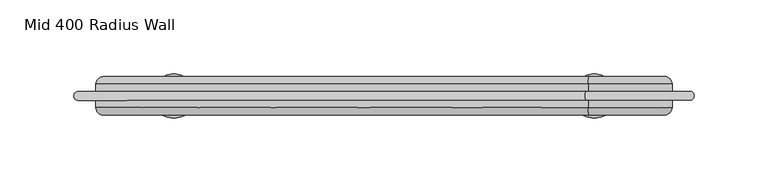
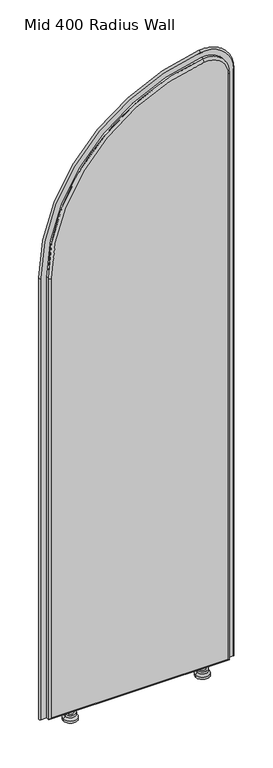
"""IFC4 building model written with IfcOpenShell, lengths in millimetres: furniture geometry, DBLTD_Sixteen3_PrivacyScreens_Artus_ArchRadius : Mid 400 Radius Wall."""

from ifc_helpers import new_model, si_unit, point, frame, origin, place, context, project, spatial, polyline, circle_curve, ellipse_curve, trimmed, source, transform, mapped, element, save
from ifc_brep_helpers import plane_surface, cylinder_surface, revolved_surface, advanced_brep


def mid_400_radius_wall_6cb88911(model_context):
    return source(origin(), model_context, "Body", "AdvancedBrep", [
        advanced_brep(
        [(-190.0, 807.0000009, 27.0), (190.0, 807.0000009, 27.0), (190.0, 807.0000009, 1356.9638535), (138.9552239, 807.0000009, 1401.5560129), (-190.0, 807.0000009, 1025.0), (190.0, 833.0000009, 27.0), (-190.0, 833.0000009, 27.0), (-190.0, 833.0000009, 1025.0), (138.9552239, 833.0000009, 1401.5560129), (190.0, 833.0000009, 1356.9638535), (138.2835821, 811.9999966, 1406.5106973), (138.2835821, 828.0000009, 1406.5106973), (-195.0, 828.0000009, 1025.0), (-195.0, 811.9999966, 1025.0), (-195.0, 828.0000009, 22.0), (-195.0, 812.0000009, 22.0), (195.0, 828.0000009, 22.0), (195.0, 812.0000009, 22.0), (195.0, 828.0000009, 1356.9638535), (195.0, 812.0000009, 1356.9638535)],
        [
            (0, 1),
            (1, 2),
            (2, 3, circle_curve(frame((145.0, 807.0000009, 1356.9638535), z_axis=(0.0, -1.0, 0.0), x_axis=(1.0, 0.0, 0.0)), 45.0)),
            (3, 4, circle_curve(frame((190.0, 807.0000009, 1025.0), z_axis=(0.0, -1.0, 0.0), x_axis=(-0.13432835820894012, 0.0, 0.9909368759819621)), 380.0)),
            (4, 0),
            (5, 6),
            (6, 7),
            (7, 8, circle_curve(frame((190.0, 833.0000009, 1025.0), z_axis=(0.0, 1.0, 0.0), x_axis=(-0.13432835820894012, 0.0, 0.9909368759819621)), 380.0)),
            (8, 9, circle_curve(frame((145.0, 833.0000009, 1356.9638535), z_axis=(0.0, 1.0, 0.0), x_axis=(1.0, 0.0, 0.0)), 45.0)),
            (9, 5),
            (10, 11),
            (11, 12, circle_curve(frame((190.0, 828.0000009, 1025.0), z_axis=(0.0, -1.0, 0.0), x_axis=(1.0, 0.0, 0.0)), 385.0)),
            (12, 13),
            (13, 10, circle_curve(frame((190.0, 812.0000009, 1025.0), z_axis=(0.0, 1.0, 0.0), x_axis=(1.0, 0.0, 0.0)), 385.0)),
            (12, 14),
            (14, 15),
            (15, 13),
            (14, 16),
            (16, 17),
            (17, 15),
            (16, 18),
            (18, 19),
            (19, 17),
            (10, 19, circle_curve(frame((145.0, 812.0000009, 1356.9638535), z_axis=(0.0, 1.0, 0.0), x_axis=(1.0, 0.0, 0.0)), 50.0)),
            (18, 11, circle_curve(frame((145.0, 828.0000009, 1356.9638535), z_axis=(0.0, -1.0, 0.0), x_axis=(1.0, 0.0, 0.0)), 50.0)),
            (17, 1, ellipse_curve(frame((190.0, 812.0000009, 27.0), z_axis=(-0.7071067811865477, 0.0, -0.7071067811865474), x_axis=(0.7071067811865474, 0.0, -0.7071067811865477)), 7.0710678, 5.0)),
            (0, 15, ellipse_curve(frame((-190.0, 812.0000009, 27.0), z_axis=(0.7071067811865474, 0.0, -0.7071067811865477), x_axis=(0.7071067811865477, 0.0, 0.7071067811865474)), 7.0710678, 5.0)),
            (5, 16, ellipse_curve(frame((190.0, 828.0000009, 27.0), z_axis=(-0.7071067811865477, 0.0, -0.7071067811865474), x_axis=(0.7071067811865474, 0.0, -0.7071067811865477)), 7.0710678, 5.0)),
            (14, 6, ellipse_curve(frame((-190.0, 828.0000009, 27.0), z_axis=(0.7071067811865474, 0.0, -0.7071067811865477), x_axis=(0.7071067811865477, 0.0, 0.7071067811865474)), 7.0710678, 5.0)),
            (19, 2, circle_curve(frame((190.0, 812.0000009, 1356.9638535), z_axis=(0.0, 0.0, -1.0), x_axis=(1.0, 0.0, 0.0)), 5.0)),
            (9, 18, circle_curve(frame((190.0, 828.0000009, 1356.9638535), z_axis=(0.0, 0.0, -1.0), x_axis=(1.0, 0.0, 0.0)), 5.0)),
            (10, 3, circle_curve(frame((138.9552239, 812.0000009, 1401.5560129), z_axis=(0.9909368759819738, 0.0, 0.13432835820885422), x_axis=(-0.13432835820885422, 0.0, 0.9909368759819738)), 5.0)),
            (8, 11, circle_curve(frame((138.9552239, 828.0000009, 1401.5560129), z_axis=(0.9909368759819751, 0.0, 0.13432835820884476), x_axis=(-0.13432835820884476, 0.0, 0.9909368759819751)), 5.0)),
            (13, 4, circle_curve(frame((-190.0, 812.0000009, 1025.0), z_axis=(0.0, 0.0, 1.0), x_axis=(-1.0, 0.0, 0.0)), 5.0)),
            (7, 12, circle_curve(frame((-190.0, 828.0000009, 1025.0), z_axis=(0.0, 0.0, 0.9999999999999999), x_axis=(-0.9999999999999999, 0.0, 0.0)), 5.0)),
        ],
        [
            plane_surface(frame((-195.0, 807.0000009, 22.0), z_axis=(0.0, -1.0, 0.0), x_axis=(0.0, 0.0, -1.0))),
            plane_surface(frame((-195.0, 833.0000009, 22.0), z_axis=(0.0, 1.0, 0.0), x_axis=(0.0, 0.0, 1.0))),
            cylinder_surface(frame((190.0, 833.0000009, 1025.0), z_axis=(0.0, -1.0, 0.0), x_axis=(1.0, 0.0, 0.0)), 385.0),
            plane_surface(frame((-195.0, 807.0000009, 1025.0), z_axis=(-1.0, 0.0, 0.0), x_axis=(0.0, 1.0, 0.0))),
            plane_surface(frame((-195.0, 807.0000009, 22.0), z_axis=(0.0, 0.0, -1.0), x_axis=(0.0, 1.0, 0.0))),
            plane_surface(frame((195.0, 807.0000009, 22.0), z_axis=(1.0, 0.0, 0.0), x_axis=(0.0, 1.0, 0.0))),
            cylinder_surface(frame((145.0, 833.0000009, 1356.9638535), z_axis=(0.0, -1.0, 0.0), x_axis=(1.0, 0.0, 0.0)), 50.0),
            cylinder_surface(frame((-195.0, 812.0000009, 27.0), z_axis=(1.0, 0.0, 0.0), x_axis=(0.0, 0.0, -1.0)), 5.0),
            cylinder_surface(frame((-195.0, 828.0000009, 27.0), z_axis=(1.0, 0.0, 0.0), x_axis=(0.0, 0.0, -1.0)), 5.0),
            cylinder_surface(frame((190.0, 812.0000009, 22.0), z_axis=(0.0, 0.0, 1.0), x_axis=(1.0, 0.0, 0.0)), 5.0),
            cylinder_surface(frame((190.0, 828.0000009, 22.0), z_axis=(0.0, 0.0, 1.0), x_axis=(1.0, 0.0, 0.0)), 5.0),
            revolved_surface(trimmed(ellipse_curve(frame((190.0, 812.0000009, 1356.9638535), z_axis=(0.0, 0.0, -1.0), x_axis=(1.0, 0.0, 0.0)), 5.0, 5.0), [point((195.0, 812.0000009, 1356.9638535))], [point((190.0, 807.0000009, 1356.9638535))], True, "CARTESIAN"), (145.0, 807.0000009, 1356.9638535), (0.0, -1.0, 0.0)),
            revolved_surface(trimmed(ellipse_curve(frame((190.0, 828.0000009, 1356.9638535), z_axis=(0.0, 0.0, -1.0), x_axis=(1.0, 0.0, 0.0)), 5.0, 5.0), [point((190.0, 833.0000009, 1356.9638535))], [point((195.0, 828.0000009, 1356.9638535))], True, "CARTESIAN"), (145.0, 807.0000009, 1356.9638535), (0.0, -1.0, 0.0)),
            revolved_surface(trimmed(ellipse_curve(frame((138.9552239, 812.0000009, 1401.5560129), z_axis=(0.9909368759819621, 0.0, 0.13432835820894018), x_axis=(-0.13432835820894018, 0.0, 0.9909368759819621)), 5.0, 5.0), [point((138.2835821, 812.0000009, 1406.5106973))], [point((138.9552239, 807.0000009, 1401.5560129))], True, "CARTESIAN"), (190.0, 807.0000009, 1025.0), (0.0, -1.0, 0.0)),
            revolved_surface(trimmed(ellipse_curve(frame((138.9552239, 828.0000009, 1401.5560129), z_axis=(0.9909368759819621, 0.0, 0.13432835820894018), x_axis=(-0.13432835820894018, 0.0, 0.9909368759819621)), 5.0, 5.0), [point((138.9552239, 833.0000009, 1401.5560129))], [point((138.2835821, 828.0000009, 1406.5106973))], True, "CARTESIAN"), (190.0, 807.0000009, 1025.0), (0.0, -1.0, 0.0)),
            cylinder_surface(frame((-190.0, 812.0000009, 1025.0), z_axis=(0.0, 0.0, -1.0), x_axis=(-1.0, 0.0, 0.0)), 5.0),
            cylinder_surface(frame((-190.0, 828.0000009, 1025.0), z_axis=(0.0, 0.0, -1.0), x_axis=(-1.0, 0.0, 0.0)), 5.0),
        ],
        [
            (0, [[1, 2, 3, 4, 5]]),
            (1, [[6, 7, 8, 9, 10]]),
            (2, [[11, 12, 13, 14]]),
            (3, [[-13, 15, 16, 17]]),
            (4, [[-16, 18, 19, 20]]),
            (5, [[-19, 21, 22, 23]]),
            (6, [[-11, 24, -22, 25]]),
            (7, [[26, -1, 27, -20]]),
            (8, [[28, -18, 29, -6]]),
            (9, [[-26, -23, 30, -2]]),
            (10, [[-28, -10, 31, -21]]),
            (11, [[-30, -24, 32, -3]]),
            (12, [[-31, -9, 33, -25]]),
            (13, [[-32, -14, 34, -4]]),
            (14, [[-33, -8, 35, -12]]),
            (15, [[-27, -5, -34, -17]]),
            (16, [[-29, -15, -35, -7]]),
        ],
    ),
        advanced_brep(
        [(206.9577057, 823.0000009, 22.0), (206.9577057, 817.0000009, 22.0), (195.0, 817.0000009, 22.0), (195.0, 823.0000009, 22.0), (-206.9577057, 823.0000009, 22.0), (-195.0, 823.0000009, 22.0), (-195.0, 817.0000009, 22.0), (-206.9577057, 817.0000009, 22.0), (206.9577057, 823.0000009, 1356.9638535), (206.9577057, 817.0000009, 1356.9638535), (136.6773231, 817.0000009, 1418.3600288), (-206.9577057, 817.0000009, 1025.0), (-195.0, 817.0000009, 1025.0), (138.2835821, 817.0000009, 1406.5106973), (195.0, 817.0000009, 1356.9638535), (195.0, 823.0000009, 1356.9638535), (138.2835821, 823.0000009, 1406.5106973), (-195.0, 823.0000009, 1025.0), (-206.9577057, 823.0000009, 1025.0), (136.6773231, 823.0000009, 1418.3600288)],
        [
            (0, 1, circle_curve(frame((206.9577057, 820.0000009, 22.0), z_axis=(0.0, 0.0, -1.0), x_axis=(1.0, 0.0, 0.0)), 3.0)),
            (1, 2),
            (2, 3),
            (3, 0),
            (4, 5),
            (5, 6),
            (6, 7),
            (7, 4, circle_curve(frame((-206.9577057, 820.0000009, 22.0), z_axis=(0.0, 0.0, -1.0), x_axis=(-1.0, 0.0, 0.0)), 3.0)),
            (0, 8),
            (8, 9, circle_curve(frame((206.9577057, 820.0000009, 1356.9638535), z_axis=(0.0, 0.0, -1.0), x_axis=(1.0, 0.0, 0.0)), 3.0)),
            (9, 1),
            (9, 10, circle_curve(frame((145.0, 817.0000009, 1356.9638535), z_axis=(0.0, -1.0, 0.0), x_axis=(1.0, 0.0, 0.0)), 61.9577057)),
            (10, 11, circle_curve(frame((190.0, 817.0000009, 1025.0), z_axis=(0.0, -1.0, 0.0), x_axis=(-0.13432835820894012, 0.0, 0.9909368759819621)), 396.9577057)),
            (11, 7),
            (6, 12),
            (12, 13, circle_curve(frame((190.0, 817.0000009, 1025.0), z_axis=(0.0, 1.0, 0.0), x_axis=(-0.13432835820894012, 0.0, 0.9909368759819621)), 385.0)),
            (13, 14, circle_curve(frame((145.0, 817.0000009, 1356.9638535), z_axis=(0.0, 1.0, 0.0), x_axis=(1.0, 0.0, 0.0)), 50.0)),
            (14, 2),
            (14, 15),
            (15, 3),
            (15, 16, circle_curve(frame((145.0, 823.0000009, 1356.9638535), z_axis=(0.0, -1.0, 0.0), x_axis=(1.0, 0.0, 0.0)), 50.0)),
            (16, 17, circle_curve(frame((190.0, 823.0000009, 1025.0), z_axis=(0.0, -1.0, 0.0), x_axis=(-0.13432835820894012, 0.0, 0.9909368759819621)), 385.0)),
            (17, 5),
            (4, 18),
            (18, 19, circle_curve(frame((190.0, 823.0000009, 1025.0), z_axis=(0.0, 1.0, 0.0), x_axis=(-0.13432835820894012, 0.0, 0.9909368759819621)), 396.9577057)),
            (19, 8, circle_curve(frame((145.0, 823.0000009, 1356.9638535), z_axis=(0.0, 1.0, 0.0), x_axis=(1.0, 0.0, 0.0)), 61.9577057)),
            (19, 10, circle_curve(frame((136.6773231, 820.0000009, 1418.3600288), z_axis=(0.9909368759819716, 0.0, 0.13432835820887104), x_axis=(-0.13432835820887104, 0.0, 0.9909368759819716)), 3.0)),
            (13, 16),
            (18, 11, circle_curve(frame((-206.9577057, 820.0000009, 1025.0), z_axis=(0.0, 0.0, 0.9999999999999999), x_axis=(-0.9999999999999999, 0.0, 0.0)), 3.0)),
            (12, 17),
        ],
        [
            plane_surface(frame((195.0, 807.0000009, 22.0), z_axis=(0.0, 0.0, -1.0), x_axis=(1.0, 0.0, 0.0))),
            plane_surface(frame((-195.0, 807.0000009, 22.0), z_axis=(0.0, 0.0, -1.0), x_axis=(-1.0, 0.0, 0.0))),
            cylinder_surface(frame((206.9577057, 820.0000009, 22.0), z_axis=(0.0, 0.0, -1.0), x_axis=(1.0, 0.0, 0.0)), 3.0),
            plane_surface(frame((206.9577057, 817.0000009, 22.0), z_axis=(0.0, -1.0, 0.0), x_axis=(0.0, 0.0, 1.0))),
            plane_surface(frame((195.0, 817.0000009, 22.0), z_axis=(-1.0, 0.0, 0.0), x_axis=(0.0, 0.0, 1.0))),
            plane_surface(frame((195.0, 823.0000009, 22.0), z_axis=(0.0, 1.0, 0.0), x_axis=(0.0, 0.0, 1.0))),
            revolved_surface(trimmed(ellipse_curve(frame((206.9577057, 820.0000009, 1356.9638535), z_axis=(0.0, 0.0, -1.0), x_axis=(1.0, 0.0, 0.0)), 3.0, 3.0), [point((206.9577057, 823.0000009, 1356.9638535))], [point((206.9577057, 817.0000009, 1356.9638535))], True, "CARTESIAN"), (145.0, 807.0000009, 1356.9638535), (0.0, -1.0, 0.0)),
            revolved_surface(polyline([(195.0, 817.0000009, 1356.9638535), (195.0, 823.0000009, 1356.9638535)]), (145.0, 807.0000009, 1356.9638535), (0.0, -1.0, 0.0)),
            revolved_surface(trimmed(ellipse_curve(frame((136.6773231, 820.0000009, 1418.3600288), z_axis=(0.9909368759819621, 0.0, 0.13432835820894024), x_axis=(-0.13432835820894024, 0.0, 0.9909368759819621)), 3.0, 3.0), [point((136.6773231, 823.0000009, 1418.3600288))], [point((136.6773231, 817.0000009, 1418.3600288))], True, "CARTESIAN"), (190.0, 807.0000009, 1025.0), (0.0, -1.0, 0.0)),
            revolved_surface(polyline([(138.28358208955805, 817.0000009, 1406.5106972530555), (138.28358208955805, 823.0000009, 1406.5106972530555)]), (190.0, 807.0000009, 1025.0), (0.0, -1.0, 0.0)),
            cylinder_surface(frame((-206.9577057, 820.0000009, 1025.0), z_axis=(0.0, 0.0, 1.0), x_axis=(-1.0, 0.0, 0.0)), 3.0),
            plane_surface(frame((-195.0, 817.0000009, 1025.0), z_axis=(1.0, 0.0, 0.0), x_axis=(0.0, 0.0, -1.0))),
        ],
        [
            (0, [[1, 2, 3, 4]]),
            (1, [[5, 6, 7, 8]]),
            (2, [[-1, 9, 10, 11]]),
            (3, [[-2, -11, 12, 13, 14, -7, 15, 16, 17, 18]]),
            (4, [[-3, -18, 19, 20]]),
            (5, [[-4, -20, 21, 22, 23, -5, 24, 25, 26, -9]]),
            (6, [[-12, -10, -26, 27]]),
            (7, [[-21, -19, -17, 28]]),
            (8, [[-13, -27, -25, 29]]),
            (9, [[-22, -28, -16, 30]]),
            (10, [[-29, -24, -8, -14]]),
            (11, [[-30, -15, -6, -23]]),
        ],
    ),
        advanced_brep(
        [(142.2938623, 820.0, 22.0), (149.2938623, 820.0, 22.0), (135.2938623, 820.0, 22.0), (149.2938623, 820.0, 15.0), (135.2938623, 820.0, 15.0), (153.744562, 820.0, 15.0), (130.8431626, 820.0, 15.0), (153.744562, 820.0, 10.0), (130.8431626, 820.0, 10.0), (157.2938623, 820.0, 5.0), (127.2938623, 820.0, 5.0), (157.2938623, 820.0, 0.0), (127.2938623, 820.0, 0.0), (142.2938623, 820.0, 0.0)],
        [
            (0, 1),
            (1, 2, circle_curve(frame((142.2938623, 820.0, 22.0), z_axis=(0.0, 0.0, 1.0), x_axis=(1.0, 0.0, 0.0)), 7.0)),
            (2, 0),
            (2, 1, circle_curve(frame((142.2938623, 820.0, 22.0), z_axis=(0.0, 0.0, 1.0), x_axis=(1.0, 0.0, 0.0)), 7.0)),
            (1, 3),
            (3, 4, circle_curve(frame((142.2938623, 820.0, 15.0), z_axis=(0.0, 0.0, 1.0), x_axis=(1.0, 0.0, 0.0)), 7.0)),
            (4, 2),
            (4, 3, circle_curve(frame((142.2938623, 820.0, 15.0), z_axis=(0.0, 0.0, 1.0), x_axis=(1.0, 0.0, 0.0)), 7.0)),
            (3, 5),
            (5, 6, circle_curve(frame((142.2938623, 820.0, 15.0), z_axis=(0.0, 0.0, 1.0), x_axis=(1.0, 0.0, 0.0)), 11.4506997)),
            (6, 4),
            (6, 5, circle_curve(frame((142.2938623, 820.0, 15.0), z_axis=(0.0, 0.0, 1.0), x_axis=(1.0, 0.0, 0.0)), 11.4506997)),
            (5, 7),
            (7, 8, circle_curve(frame((142.2938623, 820.0, 10.0), z_axis=(0.0, 0.0, 1.0), x_axis=(1.0, 0.0, 0.0)), 11.4506997)),
            (8, 6),
            (8, 7, circle_curve(frame((142.2938623, 820.0, 10.0), z_axis=(0.0, 0.0, 1.0), x_axis=(1.0, 0.0, 0.0)), 11.4506997)),
            (7, 9),
            (9, 10, circle_curve(frame((142.2938623, 820.0, 5.0), z_axis=(0.0, 0.0, 1.0), x_axis=(1.0, 0.0, 0.0)), 15.0)),
            (10, 8),
            (10, 9, circle_curve(frame((142.2938623, 820.0, 5.0), z_axis=(0.0, 0.0, 1.0), x_axis=(1.0, 0.0, 0.0)), 15.0)),
            (9, 11),
            (11, 12, circle_curve(frame((142.2938623, 820.0, 0.0), z_axis=(0.0, 0.0, 1.0), x_axis=(1.0, 0.0, 0.0)), 15.0)),
            (12, 10),
            (12, 11, circle_curve(frame((142.2938623, 820.0, 0.0), z_axis=(0.0, 0.0, 1.0), x_axis=(1.0, 0.0, 0.0)), 15.0)),
            (11, 13),
            (13, 12),
        ],
        [
            plane_surface(frame((142.2938623, 820.0, 22.0), z_axis=(0.0, 0.0, 1.0), x_axis=(1.0, 0.0, 0.0))),
            cylinder_surface(frame((142.2938623, 820.0, 5.0), z_axis=(0.0, 0.0, 1.0), x_axis=(1.0, 0.0, 0.0)), 7.0),
            plane_surface(frame((142.2938623, 820.0, 15.0), z_axis=(0.0, 0.0, 1.0), x_axis=(1.0, 0.0, 0.0))),
            cylinder_surface(frame((142.2938623, 820.0, 5.0), z_axis=(0.0, 0.0, 1.0), x_axis=(1.0, 0.0, 0.0)), 11.4506997),
            revolved_surface(polyline([(157.2938623, 820.0, 5.0), (153.744562, 820.0, 10.0)]), (142.2938623, 820.0, 5.0), (0.0, 0.0, 1.0)),
            cylinder_surface(frame((142.2938623, 820.0, 5.0), z_axis=(0.0, 0.0, 1.0), x_axis=(1.0, 0.0, 0.0)), 15.0),
            plane_surface(frame((142.2938623, 820.0, 0.0), z_axis=(0.0, 0.0, -1.0), x_axis=(1.0, 0.0, 0.0))),
        ],
        [
            (0, [[1, 2, 3]]),
            (0, [[-3, 4, -1]]),
            (1, [[-2, 5, 6, 7]]),
            (1, [[-4, -7, 8, -5]]),
            (2, [[-6, 9, 10, 11]]),
            (2, [[-8, -11, 12, -9]]),
            (3, [[-10, 13, 14, 15]]),
            (3, [[-12, -15, 16, -13]]),
            (4, [[-14, 17, 18, 19]]),
            (4, [[-16, -19, 20, -17]]),
            (5, [[-18, 21, 22, 23]]),
            (5, [[-20, -23, 24, -21]]),
            (6, [[-22, 25, 26]]),
            (6, [[-24, -26, -25]]),
        ],
    ),
        advanced_brep(
        [(-135.2938623, 820.0, 22.0), (-149.2938623, 820.0, 22.0), (-142.2938623, 820.0, 22.0), (-135.2938623, 820.0, 15.0), (-149.2938623, 820.0, 15.0), (-130.8431626, 820.0, 15.0), (-153.744562, 820.0, 15.0), (-130.8431626, 820.0, 10.0), (-153.744562, 820.0, 10.0), (-127.2938623, 820.0, 5.0), (-157.2938623, 820.0, 5.0), (-127.2938623, 820.0, 0.0), (-157.2938623, 820.0, 0.0), (-142.2938623, 820.0, 0.0)],
        [
            (0, 1, circle_curve(frame((-142.2938623, 820.0, 22.0), z_axis=(0.0, 0.0, 1.0), x_axis=(-1.0, 0.0, 0.0)), 7.0)),
            (1, 2),
            (2, 0),
            (1, 0, circle_curve(frame((-142.2938623, 820.0, 22.0), z_axis=(0.0, 0.0, 1.0), x_axis=(-1.0, 0.0, 0.0)), 7.0)),
            (3, 4, circle_curve(frame((-142.2938623, 820.0, 15.0), z_axis=(0.0, 0.0, 1.0), x_axis=(-1.0, 0.0, 0.0)), 7.0)),
            (4, 1),
            (0, 3),
            (4, 3, circle_curve(frame((-142.2938623, 820.0, 15.0), z_axis=(0.0, 0.0, 1.0), x_axis=(-1.0, 0.0, 0.0)), 7.0)),
            (5, 6, circle_curve(frame((-142.2938623, 820.0, 15.0), z_axis=(0.0, 0.0, 1.0), x_axis=(-1.0, 0.0, 0.0)), 11.4506997)),
            (6, 4),
            (3, 5),
            (6, 5, circle_curve(frame((-142.2938623, 820.0, 15.0), z_axis=(0.0, 0.0, 1.0), x_axis=(-1.0, 0.0, 0.0)), 11.4506997)),
            (7, 8, circle_curve(frame((-142.2938623, 820.0, 10.0), z_axis=(0.0, 0.0, 1.0), x_axis=(-1.0, 0.0, 0.0)), 11.4506997)),
            (8, 6),
            (5, 7),
            (8, 7, circle_curve(frame((-142.2938623, 820.0, 10.0), z_axis=(0.0, 0.0, 1.0), x_axis=(-1.0, 0.0, 0.0)), 11.4506997)),
            (9, 10, circle_curve(frame((-142.2938623, 820.0, 5.0), z_axis=(0.0, 0.0, 1.0), x_axis=(-1.0, 0.0, 0.0)), 15.0)),
            (10, 8),
            (7, 9),
            (10, 9, circle_curve(frame((-142.2938623, 820.0, 5.0), z_axis=(0.0, 0.0, 1.0), x_axis=(-1.0, 0.0, 0.0)), 15.0)),
            (11, 12, circle_curve(frame((-142.2938623, 820.0, 0.0), z_axis=(0.0, 0.0, 1.0), x_axis=(-1.0, 0.0, 0.0)), 15.0)),
            (12, 10),
            (9, 11),
            (12, 11, circle_curve(frame((-142.2938623, 820.0, 0.0), z_axis=(0.0, 0.0, 1.0), x_axis=(-1.0, 0.0, 0.0)), 15.0)),
            (13, 12),
            (11, 13),
        ],
        [
            plane_surface(frame((-142.2938623, 820.0, 22.0), z_axis=(0.0, 0.0, 1.0), x_axis=(-1.0, 0.0, 0.0))),
            cylinder_surface(frame((-142.2938623, 820.0, 5.0), z_axis=(0.0, 0.0, -1.0), x_axis=(-1.0, 0.0, 0.0)), 7.0),
            plane_surface(frame((-142.2938623, 820.0, 15.0), z_axis=(0.0, 0.0, 1.0), x_axis=(-1.0, 0.0, 0.0))),
            cylinder_surface(frame((-142.2938623, 820.0, 5.0), z_axis=(0.0, 0.0, -1.0), x_axis=(-1.0, 0.0, 0.0)), 11.4506997),
            revolved_surface(polyline([(-153.744562, 820.0, 10.0), (-157.2938623, 820.0, 5.0)]), (-142.2938623, 820.0, 5.0), (0.0, 0.0, -1.0)),
            cylinder_surface(frame((-142.2938623, 820.0, 5.0), z_axis=(0.0, 0.0, -1.0), x_axis=(-1.0, 0.0, 0.0)), 15.0),
            plane_surface(frame((-142.2938623, 820.0, 0.0), z_axis=(0.0, 0.0, -1.0), x_axis=(-1.0, 0.0, 0.0))),
        ],
        [
            (0, [[1, 2, 3]]),
            (0, [[4, -3, -2]]),
            (1, [[5, 6, -1, 7]]),
            (1, [[8, -7, -4, -6]]),
            (2, [[9, 10, -5, 11]]),
            (2, [[12, -11, -8, -10]]),
            (3, [[13, 14, -9, 15]]),
            (3, [[16, -15, -12, -14]]),
            (4, [[17, 18, -13, 19]]),
            (4, [[20, -19, -16, -18]]),
            (5, [[21, 22, -17, 23]]),
            (5, [[24, -23, -20, -22]]),
            (6, [[25, -21, 26]]),
            (6, [[-26, -24, -25]]),
        ],
    ),
    ])


if __name__ == "__main__":
    model = new_model("IFC4")
    model_context = context("Model", 3, world=origin())
    ifc_project = project(units=[si_unit("LENGTHUNIT", "METRE", prefix="MILLI")], contexts=[model_context])
    site = spatial("IfcSite", under=ifc_project)
    building = spatial("IfcBuilding", under=site)
    placement = place(None, origin())
    mid_400_radius_wall_shape = mid_400_radius_wall_6cb88911(model_context)
    element("IfcFurniture", 1, ObjectType="DBLTD_Sixteen3_PrivacyScreens_Artus_ArchRadius : Mid 400 Radius Wall", at=placement, inside=building, context=model_context, shape_type="MappedRepresentation", body=[
        mapped(mid_400_radius_wall_shape, transform((0.0, 0.0, 0.0), x_axis=(1.0, 0.0, 0.0), y_axis=(0.0, 1.0, 0.0), z_axis=(0.0, 0.0, 1.0))),
    ])
    save(model, "model.ifc")
